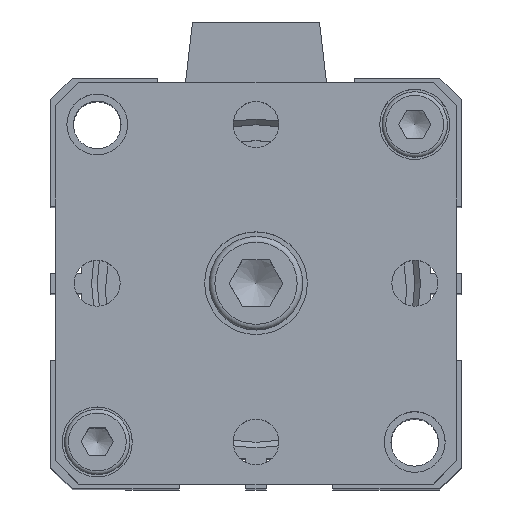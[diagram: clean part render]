
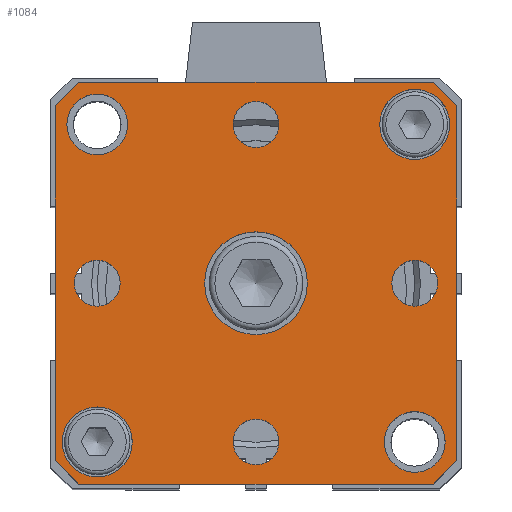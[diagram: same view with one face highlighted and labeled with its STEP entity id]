
A CAD part, top view. The second image highlights one B-rep face of the part: STEP entity #1084.
In plain terms, the highlighted planar face has unit normal (0, 0, 1).
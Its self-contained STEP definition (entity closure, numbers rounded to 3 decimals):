
#290=CARTESIAN_POINT('',(-16.976,-17.12,81.5));
#291=VERTEX_POINT('',#290);
#292=CARTESIAN_POINT('',(-20.726,-17.12,81.5));
#293=DIRECTION('',(0.0,0.0,-1.0));
#294=DIRECTION('',(1.0,0.0,0.0));
#295=AXIS2_PLACEMENT_3D('',#292,#293,#294);
#296=CIRCLE('',#295,3.75);
#297=EDGE_CURVE('',#291,#291,#296,.T.);
#392=CARTESIAN_POINT('',(17.024,16.88,81.5));
#393=VERTEX_POINT('',#392);
#394=CARTESIAN_POINT('',(13.274,16.88,81.5));
#395=DIRECTION('',(0.0,0.0,-1.0));
#396=DIRECTION('',(1.0,0.0,0.0));
#397=AXIS2_PLACEMENT_3D('',#394,#395,#396);
#398=CIRCLE('',#397,3.75);
#399=EDGE_CURVE('',#393,#393,#398,.T.);
#477=CARTESIAN_POINT('',(15.733,-0.12,81.5));
#478=VERTEX_POINT('',#477);
#479=CARTESIAN_POINT('',(13.274,-0.12,81.5));
#480=DIRECTION('',(0.0,0.0,-1.0));
#481=DIRECTION('',(1.0,0.0,0.0));
#482=AXIS2_PLACEMENT_3D('',#479,#480,#481);
#483=CIRCLE('',#482,2.459);
#484=EDGE_CURVE('',#478,#478,#483,.T.);
#526=CARTESIAN_POINT('',(-1.267,-17.12,81.5));
#527=VERTEX_POINT('',#526);
#528=CARTESIAN_POINT('',(-3.726,-17.12,81.5));
#529=DIRECTION('',(0.0,0.0,-1.0));
#530=DIRECTION('',(1.0,0.0,0.0));
#531=AXIS2_PLACEMENT_3D('',#528,#529,#530);
#532=CIRCLE('',#531,2.459);
#533=EDGE_CURVE('',#527,#527,#532,.T.);
#575=CARTESIAN_POINT('',(-18.267,-0.12,81.5));
#576=VERTEX_POINT('',#575);
#577=CARTESIAN_POINT('',(-20.726,-0.12,81.5));
#578=DIRECTION('',(0.0,0.0,-1.0));
#579=DIRECTION('',(1.0,0.0,0.0));
#580=AXIS2_PLACEMENT_3D('',#577,#578,#579);
#581=CIRCLE('',#580,2.459);
#582=EDGE_CURVE('',#576,#576,#581,.T.);
#624=CARTESIAN_POINT('',(-1.267,16.88,81.5));
#625=VERTEX_POINT('',#624);
#626=CARTESIAN_POINT('',(-3.726,16.88,81.5));
#627=DIRECTION('',(0.0,0.0,-1.0));
#628=DIRECTION('',(1.0,0.0,0.0));
#629=AXIS2_PLACEMENT_3D('',#626,#627,#628);
#630=CIRCLE('',#629,2.459);
#631=EDGE_CURVE('',#625,#625,#630,.T.);
#690=CARTESIAN_POINT('',(1.774,-0.12,81.5));
#691=VERTEX_POINT('',#690);
#692=CARTESIAN_POINT('',(-3.726,-0.12,81.5));
#693=DIRECTION('',(0.0,0.0,-1.0));
#694=DIRECTION('',(1.0,0.0,0.0));
#695=AXIS2_PLACEMENT_3D('',#692,#693,#694);
#696=CIRCLE('',#695,5.5);
#697=EDGE_CURVE('',#691,#691,#696,.T.);
#743=CARTESIAN_POINT('',(16.524,-17.12,81.5));
#744=VERTEX_POINT('',#743);
#745=CARTESIAN_POINT('',(13.274,-17.12,81.5));
#746=DIRECTION('',(0.0,0.0,-1.0));
#747=DIRECTION('',(-1.0,0.0,0.0));
#748=AXIS2_PLACEMENT_3D('',#745,#746,#747);
#749=CIRCLE('',#748,3.25);
#750=EDGE_CURVE('',#744,#744,#749,.T.);
#771=CARTESIAN_POINT('',(-17.476,16.88,81.5));
#772=VERTEX_POINT('',#771);
#773=CARTESIAN_POINT('',(-20.726,16.88,81.5));
#774=DIRECTION('',(0.0,0.0,-1.0));
#775=DIRECTION('',(-1.0,0.0,0.0));
#776=AXIS2_PLACEMENT_3D('',#773,#774,#775);
#777=CIRCLE('',#776,3.25);
#778=EDGE_CURVE('',#772,#772,#777,.T.);
#799=CARTESIAN_POINT('',(-22.726,21.38,81.5));
#800=VERTEX_POINT('',#799);
#801=CARTESIAN_POINT('',(15.274,21.38,81.5));
#802=VERTEX_POINT('',#801);
#803=CARTESIAN_POINT('',(-22.726,21.38,81.5));
#804=DIRECTION('',(1.0,0.0,0.0));
#805=VECTOR('',#804,38.);
#806=LINE('',#803,#805);
#807=EDGE_CURVE('',#800,#802,#806,.T.);
#839=CARTESIAN_POINT('',(17.774,18.88,81.5));
#840=VERTEX_POINT('',#839);
#841=CARTESIAN_POINT('',(15.274,21.38,81.5));
#842=DIRECTION('',(0.707,-0.707,0.0));
#843=VECTOR('',#842,3.536);
#844=LINE('',#841,#843);
#845=EDGE_CURVE('',#802,#840,#844,.T.);
#870=CARTESIAN_POINT('',(17.774,-19.12,81.5));
#871=VERTEX_POINT('',#870);
#872=CARTESIAN_POINT('',(17.774,18.88,81.5));
#873=DIRECTION('',(0.0,-1.0,0.0));
#874=VECTOR('',#873,38.);
#875=LINE('',#872,#874);
#876=EDGE_CURVE('',#840,#871,#875,.T.);
#901=CARTESIAN_POINT('',(15.274,-21.62,81.5));
#902=VERTEX_POINT('',#901);
#903=CARTESIAN_POINT('',(17.774,-19.12,81.5));
#904=DIRECTION('',(-0.707,-0.707,0.0));
#905=VECTOR('',#904,3.536);
#906=LINE('',#903,#905);
#907=EDGE_CURVE('',#871,#902,#906,.T.);
#932=CARTESIAN_POINT('',(-22.726,-21.62,81.5));
#933=VERTEX_POINT('',#932);
#934=CARTESIAN_POINT('',(15.274,-21.62,81.5));
#935=DIRECTION('',(-1.0,0.0,0.0));
#936=VECTOR('',#935,38.);
#937=LINE('',#934,#936);
#938=EDGE_CURVE('',#902,#933,#937,.T.);
#963=CARTESIAN_POINT('',(-25.226,-19.12,81.5));
#964=VERTEX_POINT('',#963);
#965=CARTESIAN_POINT('',(-22.726,-21.62,81.5));
#966=DIRECTION('',(-0.707,0.707,0.0));
#967=VECTOR('',#966,3.536);
#968=LINE('',#965,#967);
#969=EDGE_CURVE('',#933,#964,#968,.T.);
#994=CARTESIAN_POINT('',(-25.226,18.88,81.5));
#995=VERTEX_POINT('',#994);
#996=CARTESIAN_POINT('',(-25.226,-19.12,81.5));
#997=DIRECTION('',(0.0,1.0,0.0));
#998=VECTOR('',#997,38.);
#999=LINE('',#996,#998);
#1000=EDGE_CURVE('',#964,#995,#999,.T.);
#1025=CARTESIAN_POINT('',(-25.226,18.88,81.5));
#1026=DIRECTION('',(0.707,0.707,0.0));
#1027=VECTOR('',#1026,3.536);
#1028=LINE('',#1025,#1027);
#1029=EDGE_CURVE('',#995,#800,#1028,.T.);
#1042=CARTESIAN_POINT('',(-3.726,-0.12,81.5));
#1043=DIRECTION('',(0.0,0.0,1.0));
#1044=DIRECTION('',(1.0,0.0,0.0));
#1045=AXIS2_PLACEMENT_3D('',#1042,#1043,#1044);
#1046=PLANE('',#1045);
#1047=ORIENTED_EDGE('',*,*,#807,.F.);
#1048=ORIENTED_EDGE('',*,*,#1029,.F.);
#1049=ORIENTED_EDGE('',*,*,#1000,.F.);
#1050=ORIENTED_EDGE('',*,*,#969,.F.);
#1051=ORIENTED_EDGE('',*,*,#938,.F.);
#1052=ORIENTED_EDGE('',*,*,#907,.F.);
#1053=ORIENTED_EDGE('',*,*,#876,.F.);
#1054=ORIENTED_EDGE('',*,*,#845,.F.);
#1055=EDGE_LOOP('',(#1047,#1048,#1049,#1050,#1051,#1052,#1053,#1054));
#1056=FACE_OUTER_BOUND('',#1055,.T.);
#1057=ORIENTED_EDGE('',*,*,#297,.T.);
#1058=EDGE_LOOP('',(#1057));
#1059=FACE_BOUND('',#1058,.T.);
#1060=ORIENTED_EDGE('',*,*,#399,.T.);
#1061=EDGE_LOOP('',(#1060));
#1062=FACE_BOUND('',#1061,.T.);
#1063=ORIENTED_EDGE('',*,*,#484,.T.);
#1064=EDGE_LOOP('',(#1063));
#1065=FACE_BOUND('',#1064,.T.);
#1066=ORIENTED_EDGE('',*,*,#533,.T.);
#1067=EDGE_LOOP('',(#1066));
#1068=FACE_BOUND('',#1067,.T.);
#1069=ORIENTED_EDGE('',*,*,#582,.T.);
#1070=EDGE_LOOP('',(#1069));
#1071=FACE_BOUND('',#1070,.T.);
#1072=ORIENTED_EDGE('',*,*,#631,.T.);
#1073=EDGE_LOOP('',(#1072));
#1074=FACE_BOUND('',#1073,.T.);
#1075=ORIENTED_EDGE('',*,*,#697,.T.);
#1076=EDGE_LOOP('',(#1075));
#1077=FACE_BOUND('',#1076,.T.);
#1078=ORIENTED_EDGE('',*,*,#750,.T.);
#1079=EDGE_LOOP('',(#1078));
#1080=FACE_BOUND('',#1079,.T.);
#1081=ORIENTED_EDGE('',*,*,#778,.T.);
#1082=EDGE_LOOP('',(#1081));
#1083=FACE_BOUND('',#1082,.T.);
#1084=ADVANCED_FACE('',(#1056,#1059,#1062,#1065,#1068,#1071,#1074,#1077,#1080,#1083),#1046,.T.);
